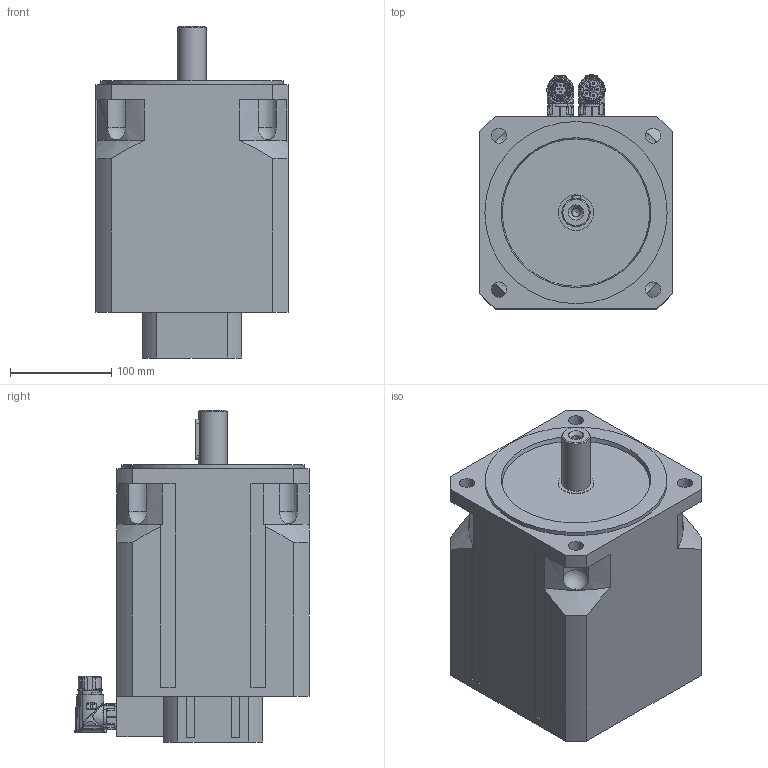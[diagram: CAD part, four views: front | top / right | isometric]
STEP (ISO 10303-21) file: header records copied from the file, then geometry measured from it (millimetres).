
FILE_DESCRIPTION((''),'2;1');
FILE_NAME('C:\PDF_output\N7028 02 BP Z_4000_S4_S1.stp','2012-12-21T10:54:12',('oslejsek'),(''),'Autodesk Inventor 2013','Autodesk Inventor 2013','');
FILE_SCHEMA(('AUTOMOTIVE_DESIGN { 1 0 10303 214 1 1 1 1 }'));
Length unit declared in the file: millimetre
Products named in the file (8): N7028 02 BP Z_4000_S4_S1; N7028 02 BP_4000; BED_0201 Flansch 25x25  6-polig mit Stiften; 124953; 124888; AED_0201_12-polig, Stift; 127323
Assembly tree (7 placements, depth 3):
  N7028 02 BP Z_4000_S4_S1
    N7028 02 BP_4000
    BED_0201 Flansch 25x25  6-polig mit Stiften
      124953
      124888
    AED_0201_12-polig, Stift
      124888
      127323
Bounding box: 190 x 231.55 x 328 mm (x, y, z)
Volume: 8457757.5 mm3; surface area: 295364.3 mm2
Topology: 5 solids, 5 shells, 1074 faces, 2730 edges, 1712 vertices
Faces by surface type: cylinder 369, plane 303, bspline 258, cone 75, torus 45, sphere 24
Full cylindrical faces by diameter (mm): 1 x12, 1.18 x12, 1.2 x12, 2 x6, 2.15 x6, 2.7 x4, 3 x1, 3.1 x4, 3.2 x1, 4.5 x2, 5.5 x2, 5.9 x2, 8.376 x1, 15 x4, 15.2 x1, 17.4 x1, 17.955 x1, 19.8 x1, 20 x3, 20.1 x2, 20.8 x1, 21.15 x4, 21.6 x1, 21.8 x1, 21.9 x1, 24.4 x1, 28 x1, 35 x1, 180 x1
Entity records: 40679 total; most frequent: CARTESIAN_POINT 16160, ORIENTED_EDGE 5020, DIRECTION 4693, EDGE_CURVE 2510, AXIS2_PLACEMENT_3D 1898, VERTEX_POINT 1669, EDGE_LOOP 1321, FACE_OUTER_BOUND 1074
